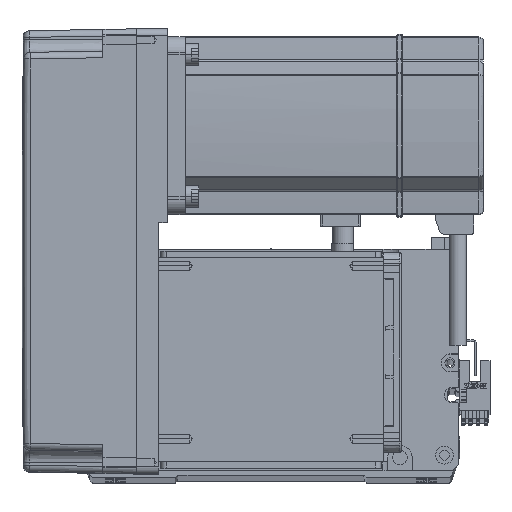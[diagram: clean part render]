
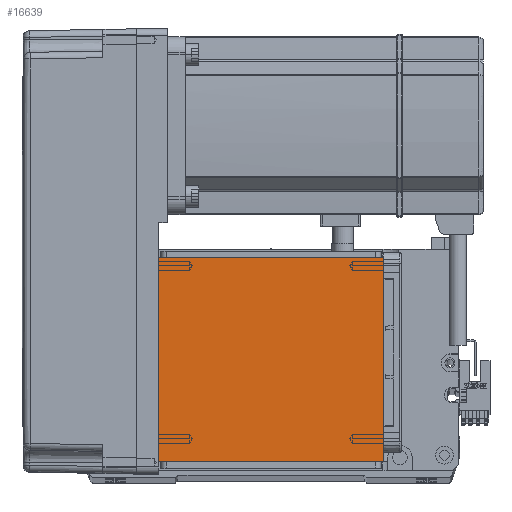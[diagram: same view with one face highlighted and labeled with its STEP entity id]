
A CAD part, top view. The second image highlights one B-rep face of the part: STEP entity #16639.
In plain terms, the highlighted planar face has unit normal (0, 0, 1).
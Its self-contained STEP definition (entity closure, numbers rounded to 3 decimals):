
#237 = DIRECTION ( 'NONE',  ( -1., 0., 0. ) ) ;
#512 = CARTESIAN_POINT ( 'NONE',  ( 50.5, 111.5, 115. ) ) ;
#1101 = VERTEX_POINT ( 'NONE', #512 ) ;
#1351 = ORIENTED_EDGE ( 'NONE', *, *, #56038, .F. ) ;
#1730 = DIRECTION ( 'NONE',  ( 1., 0., 0. ) ) ;
#2407 = CARTESIAN_POINT ( 'NONE',  ( 50.5, 20., 115. ) ) ;
#2491 = DIRECTION ( 'NONE',  ( 1., 0., 0. ) ) ;
#11905 = EDGE_CURVE ( 'NONE', #18195, #15748, #19568, .T. ) ;
#11953 = ORIENTED_EDGE ( 'NONE', *, *, #20551, .T. ) ;
#12347 = CARTESIAN_POINT ( 'NONE',  ( 50.5, 122., 115. ) ) ;
#13459 = VECTOR ( 'NONE', #31265, 1000. ) ;
#15748 = VERTEX_POINT ( 'NONE', #52894 ) ;
#16444 = VERTEX_POINT ( 'NONE', #54817 ) ;
#16639 = ADVANCED_FACE ( 'NONE', ( #58587 ), #20315, .T. ) ;
#18195 = VERTEX_POINT ( 'NONE', #2407 ) ;
#18834 = VECTOR ( 'NONE', #1730, 1000. ) ;
#19568 = LINE ( 'NONE', #33002, #34020 ) ;
#20315 = PLANE ( 'NONE',  #22689 ) ;
#20517 = CARTESIAN_POINT ( 'NONE',  ( 0., 0., 115. ) ) ;
#20551 = EDGE_CURVE ( 'NONE', #18195, #1101, #36566, .T. ) ;
#22689 = AXIS2_PLACEMENT_3D ( 'NONE', #20517, #34234, #2491 ) ;
#24279 = VECTOR ( 'NONE', #26784, 1000. ) ;
#25647 = LINE ( 'NONE', #58789, #13459 ) ;
#26784 = DIRECTION ( 'NONE',  ( 0., 1., 0. ) ) ;
#29495 = ORIENTED_EDGE ( 'NONE', *, *, #11905, .F. ) ;
#31265 = DIRECTION ( 'NONE',  ( 0., -1., 0. ) ) ;
#33002 = CARTESIAN_POINT ( 'NONE',  ( -70.004, 20., 115. ) ) ;
#34020 = VECTOR ( 'NONE', #237, 1000. ) ;
#34234 = DIRECTION ( 'NONE',  ( 0., 0., 1. ) ) ;
#36566 = LINE ( 'NONE', #12347, #24279 ) ;
#43358 = LINE ( 'NONE', #56228, #18834 ) ;
#48664 = EDGE_LOOP ( 'NONE', ( #1351, #53916, #29495, #11953 ) ) ;
#51869 = EDGE_CURVE ( 'NONE', #16444, #15748, #25647, .T. ) ;
#52894 = CARTESIAN_POINT ( 'NONE',  ( -50.5, 20., 115. ) ) ;
#53916 = ORIENTED_EDGE ( 'NONE', *, *, #51869, .T. ) ;
#54817 = CARTESIAN_POINT ( 'NONE',  ( -50.5, 111.5, 115. ) ) ;
#56038 = EDGE_CURVE ( 'NONE', #16444, #1101, #43358, .T. ) ;
#56228 = CARTESIAN_POINT ( 'NONE',  ( -70.004, 111.5, 115. ) ) ;
#58587 = FACE_OUTER_BOUND ( 'NONE', #48664, .T. ) ;
#58789 = CARTESIAN_POINT ( 'NONE',  ( -50.5, 122., 115. ) ) ;
